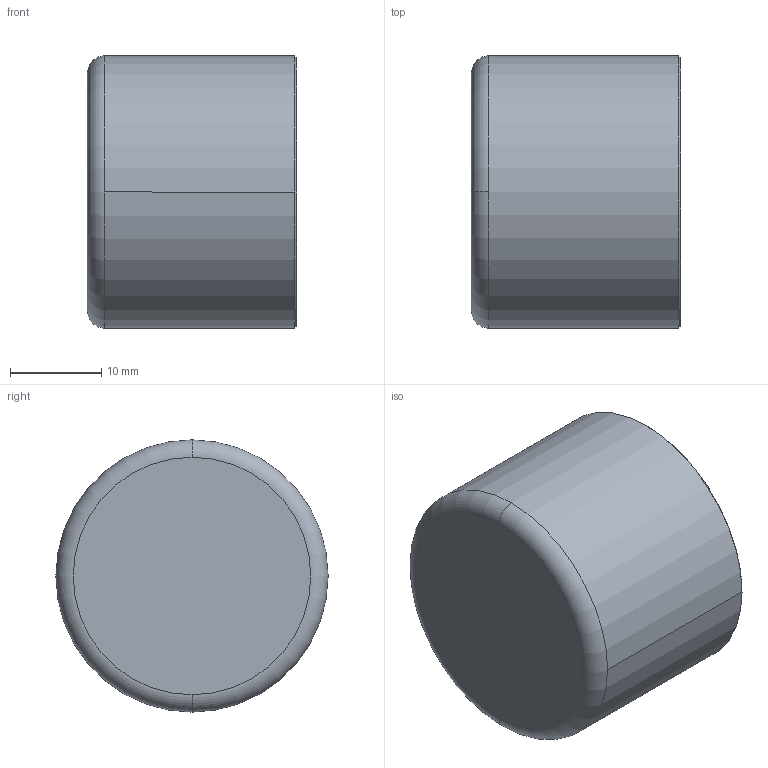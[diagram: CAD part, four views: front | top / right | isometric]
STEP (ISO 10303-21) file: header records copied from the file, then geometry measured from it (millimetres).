
FILE_DESCRIPTION((''),'2;1');
FILE_NAME('C:\sanha_work\5130\f\530128.stp','2005-10-21T18:20:03',('Kris'),(''),'Autodesk Inventor 8','Autodesk Inventor 8','');
FILE_SCHEMA(('AUTOMOTIVE_DESIGN { 1 0 10303 214 1 1 1 1 }'));
Length unit declared in the file: millimetre
Products named in the file (1): 530128
Bounding box: 22.9 x 29.8 x 29.8 mm (x, y, z)
Volume: 2369.9 mm3; surface area: 5336.6 mm2
Topology: 1 solids, 1 shells, 15 faces, 34 edges, 22 vertices
Faces by surface type: torus 4, cylinder 4, cone 4, plane 3
Entity records: 461 total; most frequent: DIRECTION 92, CARTESIAN_POINT 72, ORIENTED_EDGE 68, AXIS2_PLACEMENT_3D 42, EDGE_CURVE 34, CIRCLE 26, VERTEX_POINT 22, EDGE_LOOP 16
